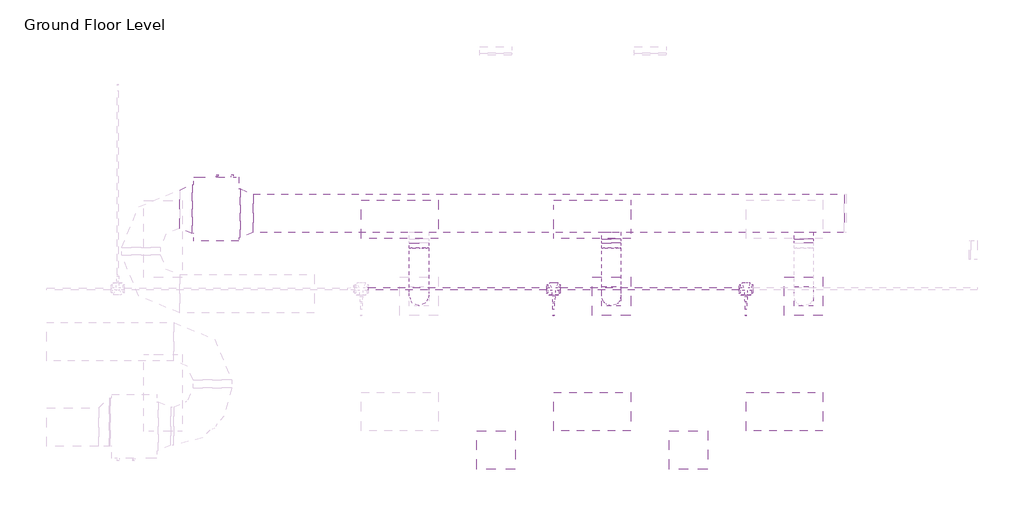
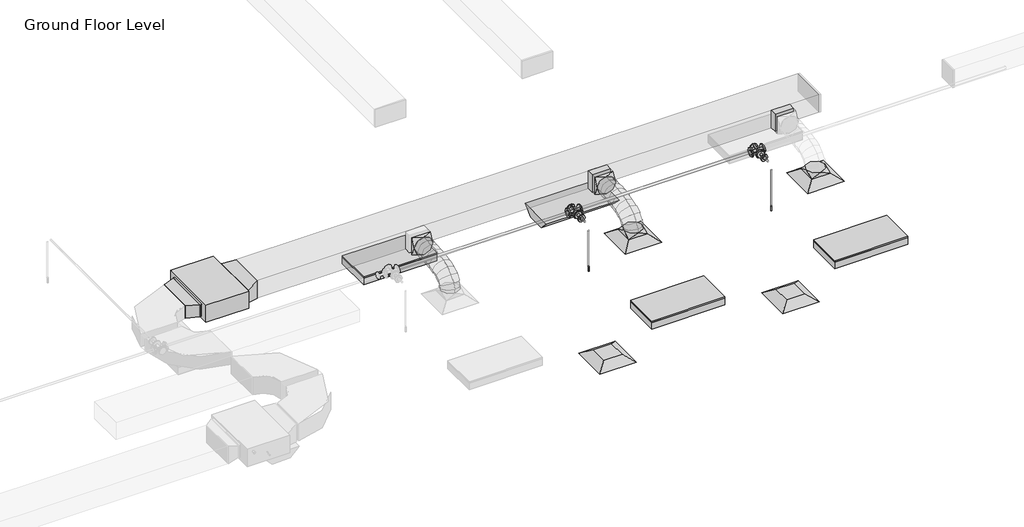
# One storey, part 12 of 68: 8 duct fittings, 6 duct segments, 6 pipe segments, 4 air terminals, 4 light fixtures, 4 pipe fittings, 2 fire suppression terminals, 1 proxy.
"""IFC4 building model written with IfcOpenShell, lengths in millimetres."""

from ifc_helpers import new_model, si_unit, point, frame, frame_2d, origin, place, context, project, spatial, polyline, circle_curve, ellipse_curve, trimmed, segment, composite_curve, outline, extrude, transform, mapped, element, save
from ifc_brep_helpers import plane_surface, cylinder_surface, advanced_brep
from components import m_return_diffuser_600_x_600_face_300_x_300_connection_ff221211, fcu_daikin_iu_7e1df382, m_rectangular_takeoff_standard_2be5eba1, m_rectangular_transition_angle_45_degree_ee72770e, m_rectangular_transition_angle_45_degree_4bb09f68, m_rectangular_to_round_transition_angle_45_degree_641efff0, m_sprinkler_dry_pendent_hosted_15_mm_dry_pendent_9bda8e11, m_emergency_recessed_lighting_fixture_600x1200_277_5b10b25d, m_troffer_light_parabolic_rectangular1_0600x1200mm_4_lamp_86473d4a, m_reducer_flanged_cs_class_150_standard_678fb8eb, m_tee_round_base_flanged_cs_class_150_standard_9c9133d0

model = new_model("IFC4")

# Units and contexts
model_context = context("Model", 3, world=origin())
ifc_project = project(units=[si_unit("LENGTHUNIT", "METRE", prefix="MILLI")], contexts=[model_context])

# Site, building, storey
site = spatial("IfcSite", under=ifc_project)
building = spatial("IfcBuilding", under=site)
storey = spatial("IfcBuildingStorey", under=building, Name="Ground Floor Level", Elevation=900.0)

# Air terminals
placement = place(None, origin())
m_return_diffuser_600_x_600_face_300_x_300_connection_shape = m_return_diffuser_600_x_600_face_300_x_300_connection_ff221211(model_context)
element("IfcAirTerminal", 1, ObjectType="M_Return Diffuser : 600 x 600 Face 300 x 300 Connection", at=placement, inside=storey, context=model_context, shape_type="MappedRepresentation", body=[
    mapped(m_return_diffuser_600_x_600_face_300_x_300_connection_shape, transform((-6937.2327605, -5464.7846466, 3650.0), x_axis=(1.0, 0.0, 0.0), y_axis=(0.0, 1.0, 0.0), z_axis=(0.0, 0.0, 1.0))),
])
element("IfcAirTerminal", 2, ObjectType="M_Return Diffuser : 600 x 600 Face 300 x 300 Connection", at=placement, inside=storey, context=model_context, shape_type="MappedRepresentation", body=[
    mapped(m_return_diffuser_600_x_600_face_300_x_300_connection_shape, transform((-3937.2327605, -5464.7846466, 3650.0), x_axis=(1.0, 0.0, 0.0), y_axis=(0.0, 1.0, 0.0), z_axis=(0.0, 0.0, 1.0))),
])
element("IfcAirTerminal", 3, ObjectType="M_Supply Diffuser : 600 x 600 Face 300 x 300 Connection", at=placement, inside=storey, context=model_context, shape_type="MappedRepresentation", body=[
    mapped(m_return_diffuser_600_x_600_face_300_x_300_connection_shape, transform((-5137.2327605, -3064.7846466, 3650.0), x_axis=(1.0, 0.0, 0.0), y_axis=(0.0, 1.0, 0.0), z_axis=(0.0, 0.0, 1.0))),
])
element("IfcAirTerminal", 4, ObjectType="M_Supply Diffuser : 600 x 600 Face 300 x 300 Connection", at=placement, inside=storey, context=model_context, shape_type="MappedRepresentation", body=[
    mapped(m_return_diffuser_600_x_600_face_300_x_300_connection_shape, transform((-2137.2327605, -3064.7846466, 3650.0), x_axis=(1.0, 0.0, 0.0), y_axis=(0.0, 1.0, 0.0), z_axis=(0.0, 0.0, 1.0))),
])

# Proxy
fcu_daikin_iu_shape = fcu_daikin_iu_7e1df382(model_context)
element("IfcBuildingElementProxy", 5, Name="FCU-DAIKIN IU : 5.7kW, 230V/50Hz/1Ph", ObjectType="FCU-DAIKIN IU : 5.7kW, 230V/50Hz/1Ph", at=placement, inside=storey, context=model_context, shape_type="MappedRepresentation", body=[
    mapped(fcu_daikin_iu_shape, transform((-11297.2327605, -1704.7846466, 3934.0873731), x_axis=(0.0, 1.0, 0.0), y_axis=(-1.0, 0.0, 0.0), z_axis=(0.0, 0.0, 1.0))),
])

# Duct fittings
m_rectangular_takeoff_standard_shape = m_rectangular_takeoff_standard_2be5eba1(model_context)
element("IfcDuctFitting", 6, ObjectType="M_Rectangular Takeoff : Standard", at=placement, inside=storey, context=model_context, shape_type="MappedRepresentation", body=[
    mapped(m_rectangular_takeoff_standard_shape, transform((-2137.2327605, -2068.2846466, 4099.9882429), x_axis=(0.0, -1.0, 0.0), y_axis=(-1.0, 0.0, 0.0), z_axis=(0.0, 0.0, -1.0))),
])
element("IfcDuctFitting", 7, ObjectType="M_Rectangular Takeoff : Standard", at=placement, inside=storey, context=model_context, shape_type="MappedRepresentation", body=[
    mapped(m_rectangular_takeoff_standard_shape, transform((-5137.2327605, -2068.2846466, 4099.9923494), x_axis=(0.0, -1.0, 0.0), y_axis=(-1.0, 0.0, 0.0), z_axis=(0.0, 0.0, -1.0))),
])
m_rectangular_transition_angle_45_degree_shape = m_rectangular_transition_angle_45_degree_ee72770e(model_context)
element("IfcDuctFitting", 8, ObjectType="M_Rectangular Transition - Angle : 45 Degree", at=placement, inside=storey, context=model_context, shape_type="MappedRepresentation", body=[
    mapped(m_rectangular_transition_angle_45_degree_shape, transform((-10921.8327605, -1768.2846466, 4099.9998731), x_axis=(1.0, 0.0, 0.0), y_axis=(0.0, 1.0, 0.0), z_axis=(0.0, 0.0, 1.0))),
])
m_rectangular_transition_angle_45_degree_2_shape = m_rectangular_transition_angle_45_degree_4bb09f68(model_context)
element("IfcDuctFitting", 9, ObjectType="M_Rectangular Transition - Angle : 45 Degree", at=placement, inside=storey, context=model_context, shape_type="MappedRepresentation", body=[
    mapped(m_rectangular_transition_angle_45_degree_2_shape, transform((-11872.6327605, -1704.7846466, 4075.2873731), x_axis=(1.0, 0.0, 0.0), y_axis=(0.0, 1.0, 0.0), z_axis=(0.0, 0.0, 1.0))),
])
m_rectangular_to_round_transition_angle_45_degree_shape = m_rectangular_to_round_transition_angle_45_degree_641efff0(model_context)
element("IfcDuctFitting", 10, ObjectType="M_Rectangular to Round Transition - Angle : 45 Degree", at=placement, inside=storey, context=model_context, shape_type="MappedRepresentation", body=[
    mapped(m_rectangular_to_round_transition_angle_45_degree_shape, transform((-2137.2327605, -3064.7846466, 3751.6), x_axis=(0.0, 0.0, 1.0), y_axis=(-1.0, 0.0, 0.0), z_axis=(0.0, -1.0, 0.0))),
])
element("IfcDuctFitting", 11, ObjectType="M_Rectangular to Round Transition - Angle : 45 Degree", at=placement, inside=storey, context=model_context, shape_type="MappedRepresentation", body=[
    mapped(m_rectangular_to_round_transition_angle_45_degree_shape, transform((-5137.2327605, -3064.7846466, 3751.6), x_axis=(0.0, 0.0, 1.0), y_axis=(-1.0, 0.0, 0.0), z_axis=(0.0, -1.0, 0.0))),
])
element("IfcDuctFitting", 12, ObjectType="M_Rectangular to Round Transition - Angle : 45 Degree", at=placement, inside=storey, context=model_context, shape_type="MappedRepresentation", body=[
    mapped(m_rectangular_to_round_transition_angle_45_degree_shape, transform((-5137.2327605, -2237.4410647, 4099.9923494), x_axis=(0.0, -1.0, 0.0), y_axis=(1.0, 0.0, 0.0), z_axis=(0.0, 0.0, 1.0))),
])
element("IfcDuctFitting", 13, ObjectType="M_Rectangular to Round Transition - Angle : 45 Degree", at=placement, inside=storey, context=model_context, shape_type="MappedRepresentation", body=[
    mapped(m_rectangular_to_round_transition_angle_45_degree_shape, transform((-8137.2327605, -2237.4451712, 4099.9964558), x_axis=(0.0, -1.0, 0.0), y_axis=(1.0, 0.0, 0.0), z_axis=(0.0, 0.0, 1.0))),
])

# Duct segments
element("IfcDuctSegment", 14, ObjectType="Flex - Round", at=placement, inside=storey, context=model_context, shape_type="AdvancedBrep", body=[
    advanced_brep(
    [(-4987.2327605, -3064.7846466, 3826.6), (-5137.2327605, -3214.7846466, 3826.6), (-5287.2327605, -3064.7846466, 3826.6), (-5137.2327605, -2914.7846466, 3826.6), (-4987.2327605, -3064.7846466, 3857.9380326), (-5137.2327605, -3214.7846466, 3883.5816473), (-5287.2327605, -3064.7846466, 3857.9380326), (-5137.2327605, -2914.7846466, 3832.2944178), (-4987.2327605, -3047.7685019, 3906.2507123), (-5137.2327605, -3181.505999, 3978.0672475), (-5287.2327605, -3047.7685019, 3906.2507123), (-5137.2327605, -2914.0310048, 3834.4341772), (-4987.2327605, -3000.584044, 3968.710963), (-5137.2327605, -3104.7886338, 4079.6215744), (-5287.2327605, -3000.584044, 3968.710963), (-5137.2327605, -2896.3794543, 3857.8003516), (-4987.2327605, -2929.0272371, 4016.0687585), (-5137.2327605, -2997.9592292, 4150.3235149), (-5287.2327605, -2929.0272371, 4016.0687585), (-5137.2327605, -2860.095245, 3881.8140022), (-4987.2327605, -2838.8940455, 4050.4121057), (-5137.2327605, -2882.4525531, 4194.3348919), (-5287.2327605, -2838.8940455, 4050.4121057), (-5137.2327605, -2795.3355379, 3906.4893195), (-4987.2327605, -2735.9804334, 4073.8290112), (-5137.2327605, -2762.5392192, 4221.6199045), (-5287.2327605, -2735.9804334, 4073.8290112), (-5137.2327605, -2709.4216475, 3926.0381179), (-4987.2327605, -2626.082365, 4088.4074817), (-5137.2327605, -2641.2314089, 4237.7119283), (-5287.2327605, -2626.082365, 4088.4074817), (-5137.2327605, -2610.9333211, 3939.103035), (-4987.2327605, -2514.9958046, 4096.2355237), (-5137.2327605, -2522.4996869, 4246.0787092), (-5287.2327605, -2514.9958046, 4096.2355237), (-5137.2327605, -2507.4919223, 3946.3923382), (-4987.2327605, -2408.5167164, 4099.4011441), (-5137.2327605, -2411.2073599, 4249.387427), (-5287.2327605, -2408.5167164, 4099.4011441), (-5137.2327605, -2405.8260729, 3949.4148611), (-4987.2327605, -2312.4410647, 4099.9923494), (-5137.2327605, -2311.5180513, 3949.9951892), (-5287.2327605, -2312.4410647, 4099.9923494), (-5137.2327605, -2313.3640781, 4249.9895095)],
    [
        (0, 1, circle_curve(frame((-5137.2327605, -3064.7846466, 3826.6), z_axis=(0.0, 0.0, -1.0), x_axis=(1.0, 0.0, 0.0)), 150.0)),
        (1, 2, circle_curve(frame((-5137.2327605, -3064.7846466, 3826.6), z_axis=(0.0, 0.0, -1.0), x_axis=(1.0, 0.0, 0.0)), 150.0)),
        (2, 3, circle_curve(frame((-5137.2327605, -3064.7846466, 3826.6), z_axis=(0.0, 0.0, -1.0), x_axis=(1.0, 0.0, 0.0)), 150.0)),
        (3, 0, circle_curve(frame((-5137.2327605, -3064.7846466, 3826.6), z_axis=(0.0, 0.0, -1.0), x_axis=(1.0, 0.0, 0.0)), 150.0)),
        (0, 4),
        (4, 5, ellipse_curve(frame((-5137.2327605, -3064.7846466, 3857.9380326), z_axis=(0.0, -0.16851265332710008, -0.9856994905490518), x_axis=(0.0, 0.9856994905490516, -0.16851265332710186)), 152.1761971, 150.0)),
        (5, 1),
        (5, 6, ellipse_curve(frame((-5137.2327605, -3064.7846466, 3857.9380326), z_axis=(0.0, -0.16851265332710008, -0.9856994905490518), x_axis=(0.0, 0.9856994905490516, -0.16851265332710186)), 152.1761971, 150.0)),
        (6, 2),
        (6, 7, ellipse_curve(frame((-5137.2327605, -3064.7846466, 3857.9380326), z_axis=(0.0, -0.16851265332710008, -0.9856994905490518), x_axis=(0.0, 0.9856994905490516, -0.16851265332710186)), 152.1761971, 150.0)),
        (7, 3),
        (7, 4, ellipse_curve(frame((-5137.2327605, -3064.7846466, 3857.9380326), z_axis=(0.0, -0.16851265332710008, -0.9856994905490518), x_axis=(0.0, 0.9856994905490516, -0.16851265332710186)), 152.1761971, 150.0)),
        (4, 8),
        (8, 9, ellipse_curve(frame((-5137.2327605, -3047.7685019, 3906.2507123), z_axis=(0.0, -0.47309875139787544, -0.881009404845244), x_axis=(0.0, 0.8810094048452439, -0.47309875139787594)), 151.8003058, 150.0)),
        (9, 5),
        (9, 10, ellipse_curve(frame((-5137.2327605, -3047.7685019, 3906.2507123), z_axis=(0.0, -0.47309875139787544, -0.881009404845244), x_axis=(0.0, 0.8810094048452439, -0.47309875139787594)), 151.8003058, 150.0)),
        (10, 6),
        (10, 11, ellipse_curve(frame((-5137.2327605, -3047.7685019, 3906.2507123), z_axis=(0.0, -0.47309875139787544, -0.881009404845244), x_axis=(0.0, 0.8810094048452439, -0.47309875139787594)), 151.8003058, 150.0)),
        (11, 7),
        (11, 8, ellipse_curve(frame((-5137.2327605, -3047.7685019, 3906.2507123), z_axis=(0.0, -0.47309875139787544, -0.881009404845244), x_axis=(0.0, 0.8810094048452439, -0.47309875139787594)), 151.8003058, 150.0)),
        (8, 12),
        (12, 13, ellipse_curve(frame((-5137.2327605, -3000.584044, 3968.710963), z_axis=(0.0, -0.7287961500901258, -0.6847307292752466), x_axis=(0.0, 0.6847307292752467, -0.7287961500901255)), 152.1833113, 150.0)),
        (13, 9),
        (13, 14, ellipse_curve(frame((-5137.2327605, -3000.584044, 3968.710963), z_axis=(0.0, -0.7287961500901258, -0.6847307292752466), x_axis=(0.0, 0.6847307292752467, -0.7287961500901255)), 152.1833113, 150.0)),
        (14, 10),
        (14, 15, ellipse_curve(frame((-5137.2327605, -3000.584044, 3968.710963), z_axis=(0.0, -0.7287961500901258, -0.6847307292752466), x_axis=(0.0, 0.6847307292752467, -0.7287961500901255)), 152.1833113, 150.0)),
        (15, 11),
        (15, 12, ellipse_curve(frame((-5137.2327605, -3000.584044, 3968.710963), z_axis=(0.0, -0.7287961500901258, -0.6847307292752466), x_axis=(0.0, 0.6847307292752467, -0.7287961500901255)), 152.1833113, 150.0)),
        (12, 16),
        (16, 17, ellipse_curve(frame((-5137.2327605, -2929.0272371, 4016.0687585), z_axis=(0.0, -0.8895929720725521, -0.4567541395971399), x_axis=(0.0, 0.45675413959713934, -0.8895929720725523)), 150.9170604, 150.0)),
        (17, 13),
        (17, 18, ellipse_curve(frame((-5137.2327605, -2929.0272371, 4016.0687585), z_axis=(0.0, -0.8895929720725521, -0.4567541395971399), x_axis=(0.0, 0.45675413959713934, -0.8895929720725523)), 150.9170604, 150.0)),
        (18, 14),
        (18, 19, ellipse_curve(frame((-5137.2327605, -2929.0272371, 4016.0687585), z_axis=(0.0, -0.8895929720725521, -0.4567541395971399), x_axis=(0.0, 0.45675413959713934, -0.8895929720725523)), 150.9170604, 150.0)),
        (19, 15),
        (19, 16, ellipse_curve(frame((-5137.2327605, -2929.0272371, 4016.0687585), z_axis=(0.0, -0.8895929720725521, -0.4567541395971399), x_axis=(0.0, 0.45675413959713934, -0.8895929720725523)), 150.9170604, 150.0)),
        (16, 20),
        (20, 21, ellipse_curve(frame((-5137.2327605, -2838.8940455, 4050.4121057), z_axis=(0.0, -0.9571248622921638, -0.2896756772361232), x_axis=(0.0, 0.28967567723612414, -0.9571248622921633)), 150.3699171, 150.0)),
        (21, 17),
        (21, 22, ellipse_curve(frame((-5137.2327605, -2838.8940455, 4050.4121057), z_axis=(0.0, -0.9571248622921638, -0.2896756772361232), x_axis=(0.0, 0.28967567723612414, -0.9571248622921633)), 150.3699171, 150.0)),
        (22, 18),
        (22, 23, ellipse_curve(frame((-5137.2327605, -2838.8940455, 4050.4121057), z_axis=(0.0, -0.9571248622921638, -0.2896756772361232), x_axis=(0.0, 0.28967567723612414, -0.9571248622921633)), 150.3699171, 150.0)),
        (23, 19),
        (23, 20, ellipse_curve(frame((-5137.2327605, -2838.8940455, 4050.4121057), z_axis=(0.0, -0.9571248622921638, -0.2896756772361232), x_axis=(0.0, 0.28967567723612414, -0.9571248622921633)), 150.3699171, 150.0)),
        (20, 24),
        (24, 25, ellipse_curve(frame((-5137.2327605, -2735.9804334, 4073.8290112), z_axis=(0.0, -0.984233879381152, -0.17687190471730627), x_axis=(0.0, 0.17687190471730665, -0.984233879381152)), 150.1583073, 150.0)),
        (25, 21),
        (25, 26, ellipse_curve(frame((-5137.2327605, -2735.9804334, 4073.8290112), z_axis=(0.0, -0.984233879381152, -0.17687190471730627), x_axis=(0.0, 0.17687190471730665, -0.984233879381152)), 150.1583073, 150.0)),
        (26, 22),
        (26, 27, ellipse_curve(frame((-5137.2327605, -2735.9804334, 4073.8290112), z_axis=(0.0, -0.984233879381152, -0.17687190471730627), x_axis=(0.0, 0.17687190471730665, -0.984233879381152)), 150.1583073, 150.0)),
        (27, 23),
        (27, 24, ellipse_curve(frame((-5137.2327605, -2735.9804334, 4073.8290112), z_axis=(0.0, -0.984233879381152, -0.17687190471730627), x_axis=(0.0, 0.17687190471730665, -0.984233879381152)), 150.1583073, 150.0)),
        (24, 28),
        (28, 29, ellipse_curve(frame((-5137.2327605, -2626.082365, 4088.4074817), z_axis=(0.0, -0.9948919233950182, -0.1009458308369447), x_axis=(0.0, 0.10094583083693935, -0.9948919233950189)), 150.0710209, 150.0)),
        (29, 25),
        (29, 30, ellipse_curve(frame((-5137.2327605, -2626.082365, 4088.4074817), z_axis=(0.0, -0.9948919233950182, -0.1009458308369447), x_axis=(0.0, 0.10094583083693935, -0.9948919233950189)), 150.0710209, 150.0)),
        (30, 26),
        (30, 31, ellipse_curve(frame((-5137.2327605, -2626.082365, 4088.4074817), z_axis=(0.0, -0.9948919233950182, -0.1009458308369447), x_axis=(0.0, 0.10094583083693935, -0.9948919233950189)), 150.0710209, 150.0)),
        (31, 27),
        (31, 28, ellipse_curve(frame((-5137.2327605, -2626.082365, 4088.4074817), z_axis=(0.0, -0.9948919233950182, -0.1009458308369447), x_axis=(0.0, 0.10094583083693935, -0.9948919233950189)), 150.0710209, 150.0)),
        (28, 32),
        (32, 33, ellipse_curve(frame((-5137.2327605, -2514.9958046, 4096.2355237), z_axis=(0.0, -0.9987484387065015, -0.05001555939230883), x_axis=(0.0, 0.05001555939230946, -0.9987484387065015)), 150.0309584, 150.0)),
        (33, 29),
        (33, 34, ellipse_curve(frame((-5137.2327605, -2514.9958046, 4096.2355237), z_axis=(0.0, -0.9987484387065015, -0.05001555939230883), x_axis=(0.0, 0.05001555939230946, -0.9987484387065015)), 150.0309584, 150.0)),
        (34, 30),
        (34, 35, ellipse_curve(frame((-5137.2327605, -2514.9958046, 4096.2355237), z_axis=(0.0, -0.9987484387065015, -0.05001555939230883), x_axis=(0.0, 0.05001555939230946, -0.9987484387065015)), 150.0309584, 150.0)),
        (35, 31),
        (35, 32, ellipse_curve(frame((-5137.2327605, -2514.9958046, 4096.2355237), z_axis=(0.0, -0.9987484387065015, -0.05001555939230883), x_axis=(0.0, 0.05001555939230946, -0.9987484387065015)), 150.0309584, 150.0)),
        (32, 36),
        (36, 37, ellipse_curve(frame((-5137.2327605, -2408.5167164, 4099.4011441), z_axis=(0.0, -0.9998391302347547, -0.01793637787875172), x_axis=(0.0, 0.017936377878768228, -0.9998391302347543)), 150.0104151, 150.0)),
        (37, 33),
        (37, 38, ellipse_curve(frame((-5137.2327605, -2408.5167164, 4099.4011441), z_axis=(0.0, -0.9998391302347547, -0.01793637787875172), x_axis=(0.0, 0.017936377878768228, -0.9998391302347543)), 150.0104151, 150.0)),
        (38, 34),
        (38, 39, ellipse_curve(frame((-5137.2327605, -2408.5167164, 4099.4011441), z_axis=(0.0, -0.9998391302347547, -0.01793637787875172), x_axis=(0.0, 0.017936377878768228, -0.9998391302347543)), 150.0104151, 150.0)),
        (39, 35),
        (39, 36, ellipse_curve(frame((-5137.2327605, -2408.5167164, 4099.4011441), z_axis=(0.0, -0.9998391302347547, -0.01793637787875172), x_axis=(0.0, 0.017936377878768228, -0.9998391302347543)), 150.0104151, 150.0)),
        (40, 41, circle_curve(frame((-5137.2327605, -2312.4410647, 4099.9923494), z_axis=(0.0, 0.9999810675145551, 0.0061534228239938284), x_axis=(1.0, 0.0, 0.0)), 150.0)),
        (41, 42, circle_curve(frame((-5137.2327605, -2312.4410647, 4099.9923494), z_axis=(0.0, 0.9999810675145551, 0.0061534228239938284), x_axis=(1.0, 0.0, 0.0)), 150.0)),
        (42, 43, circle_curve(frame((-5137.2327605, -2312.4410647, 4099.9923494), z_axis=(0.0, 0.9999810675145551, 0.0061534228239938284), x_axis=(1.0, 0.0, 0.0)), 150.0)),
        (43, 40, circle_curve(frame((-5137.2327605, -2312.4410647, 4099.9923494), z_axis=(0.0, 0.9999810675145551, 0.0061534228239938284), x_axis=(1.0, 0.0, 0.0)), 150.0)),
        (36, 40),
        (43, 37),
        (42, 38),
        (41, 39),
    ],
    [
        plane_surface(frame((-5137.2327605, -3214.7846466, 3826.6), z_axis=(0.0, 0.0, -1.0), x_axis=(1.0, 0.0, 0.0))),
        cylinder_surface(frame((-5137.2327605, -3064.7846466, 3826.6), z_axis=(0.0, 0.0, -1.0), x_axis=(1.0, 0.0, 0.0)), 150.0),
        cylinder_surface(frame((-5137.2327605, -3064.7846466, 3857.9380326), z_axis=(0.0, -0.33220567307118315, -0.9432069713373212), x_axis=(1.0, 0.0, 0.0)), 150.0),
        cylinder_surface(frame((-5137.2327605, -3047.7685019, 3906.2507123), z_axis=(0.0, -0.6027702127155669, -0.797914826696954), x_axis=(1.0, 0.0, 0.0)), 150.0),
        cylinder_surface(frame((-5137.2327605, -3000.584044, 3968.710963), z_axis=(0.0, -0.8339106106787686, -0.5518995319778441), x_axis=(1.0, 0.0, 0.0)), 150.0),
        cylinder_surface(frame((-5137.2327605, -2929.0272371, 4016.0687585), z_axis=(0.0, -0.9344639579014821, -0.3560577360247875), x_axis=(1.0, 0.0, 0.0)), 150.0),
        cylinder_surface(frame((-5137.2327605, -2838.8940455, 4050.4121057), z_axis=(0.0, -0.9750766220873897, -0.22186838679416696), x_axis=(1.0, 0.0, 0.0)), 150.0),
        cylinder_surface(frame((-5137.2327605, -2735.9804334, 4073.8290112), z_axis=(0.0, -0.9913158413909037, -0.13150248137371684), x_axis=(1.0, 0.0, 0.0)), 150.0),
        cylinder_surface(frame((-5137.2327605, -2626.082365, 4088.4074817), z_axis=(0.0, -0.9975263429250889, -0.07029363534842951), x_axis=(1.0, 0.0, 0.0)), 150.0),
        cylinder_surface(frame((-5137.2327605, -2514.9958046, 4096.2355237), z_axis=(0.0, -0.9995583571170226, -0.029716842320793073), x_axis=(1.0, 0.0, 0.0)), 150.0),
        plane_surface(frame((-5137.2327605, -2313.3640781, 4249.9895095), z_axis=(0.0, 0.9999810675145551, 0.006153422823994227), x_axis=(1.0, 0.0, 0.0))),
        cylinder_surface(frame((-5137.2327605, -2408.5167164, 4099.4011441), z_axis=(0.0, -0.9999810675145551, -0.0061534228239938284), x_axis=(1.0, 0.0, 0.0)), 150.0),
    ],
    [
        (0, [[1, 2, 3, 4]]),
        (1, [[-1, 5, 6, 7]]),
        (1, [[-2, -7, 8, 9]]),
        (1, [[-3, -9, 10, 11]]),
        (1, [[-4, -11, 12, -5]]),
        (2, [[-6, 13, 14, 15]]),
        (2, [[-8, -15, 16, 17]]),
        (2, [[-10, -17, 18, 19]]),
        (2, [[-12, -19, 20, -13]]),
        (3, [[-14, 21, 22, 23]]),
        (3, [[-16, -23, 24, 25]]),
        (3, [[-18, -25, 26, 27]]),
        (3, [[-20, -27, 28, -21]]),
        (4, [[-22, 29, 30, 31]]),
        (4, [[-24, -31, 32, 33]]),
        (4, [[-26, -33, 34, 35]]),
        (4, [[-28, -35, 36, -29]]),
        (5, [[-30, 37, 38, 39]]),
        (5, [[-32, -39, 40, 41]]),
        (5, [[-34, -41, 42, 43]]),
        (5, [[-36, -43, 44, -37]]),
        (6, [[-38, 45, 46, 47]]),
        (6, [[-40, -47, 48, 49]]),
        (6, [[-42, -49, 50, 51]]),
        (6, [[-44, -51, 52, -45]]),
        (7, [[-46, 53, 54, 55]]),
        (7, [[-48, -55, 56, 57]]),
        (7, [[-50, -57, 58, 59]]),
        (7, [[-52, -59, 60, -53]]),
        (8, [[-54, 61, 62, 63]]),
        (8, [[-56, -63, 64, 65]]),
        (8, [[-58, -65, 66, 67]]),
        (8, [[-60, -67, 68, -61]]),
        (9, [[-62, 69, 70, 71]]),
        (9, [[-64, -71, 72, 73]]),
        (9, [[-66, -73, 74, 75]]),
        (9, [[-68, -75, 76, -69]]),
        (10, [[77, 78, 79, 80]]),
        (11, [[-70, 81, -80, 82]]),
        (11, [[-72, -82, -79, 83]]),
        (11, [[-74, -83, -78, 84]]),
        (11, [[-76, -84, -77, -81]]),
    ],
),
])
element("IfcDuctSegment", 15, ObjectType="Flex - Round", at=placement, inside=storey, context=model_context, shape_type="AdvancedBrep", body=[
    advanced_brep(
    [(-7987.2327605, -3064.7846466, 3826.6), (-8137.2327605, -3214.7846466, 3826.6), (-8287.2327605, -3064.7846466, 3826.6), (-8137.2327605, -2914.7846466, 3826.6), (-7987.2327605, -3064.7846466, 3857.9378602), (-8137.2327605, -3214.7846466, 3883.5812643), (-8287.2327605, -3064.7846466, 3857.9378602), (-8137.2327605, -2914.7846466, 3832.2944561), (-7987.2327605, -3047.7686158, 3906.2506375), (-8137.2327605, -3181.5063715, 3978.0666298), (-8287.2327605, -3047.7686158, 3906.2506375), (-8137.2327605, -2914.03086, 3834.4346451), (-7987.2327605, -3000.5844679, 3968.7111509), (-8137.2327605, -3104.7897605, 4079.6210528), (-8287.2327605, -3000.5844679, 3968.7111509), (-8137.2327605, -2896.3791753, 3857.801249), (-7987.2327605, -2929.0281198, 4016.0694592), (-8137.2327605, -2997.9612194, 4150.3236405), (-8287.2327605, -2929.0281198, 4016.0694592), (-8137.2327605, -2860.0950201, 3881.8152779), (-7987.2327605, -2838.8954883, 4050.4134811), (-8137.2327605, -2882.4552066, 4194.3359031), (-8287.2327605, -2838.8954883, 4050.4134811), (-8137.2327605, -2795.33577, 3906.4910592), (-7987.2327605, -2735.9824904, 4073.8311356), (-8137.2327605, -2762.5424239, 4221.6218258), (-8287.2327605, -2735.9824904, 4073.8311356), (-8137.2327605, -2709.4225569, 3926.0404454), (-7987.2327605, -2626.0850428, 4088.4103415), (-8137.2327605, -2641.2350842, 4237.7146898), (-8287.2327605, -2626.0850428, 4088.4103415), (-8137.2327605, -2610.9350014, 3939.1059931), (-7987.2327605, -2514.9990625, 4096.2390176), (-8137.2327605, -2522.5037209, 4246.0821669), (-8287.2327605, -2514.9990625, 4096.2390176), (-8137.2327605, -2507.4944041, 3946.3958683), (-7987.2327605, -2408.5204663, 4099.4050828), (-8137.2327605, -2411.2115659, 4249.3913598), (-8287.2327605, -2408.5204663, 4099.4050828), (-8137.2327605, -2405.8293668, 3949.4188057), (-7987.2327605, -2312.4451712, 4099.9964558), (-8137.2327605, -2311.5218924, 3949.9992973), (-8287.2327605, -2312.4451712, 4099.9964558), (-8137.2327605, -2313.36845, 4249.9936143)],
    [
        (0, 1, circle_curve(frame((-8137.2327605, -3064.7846466, 3826.6), z_axis=(0.0, 0.0, -1.0), x_axis=(1.0, 0.0, 0.0)), 150.0)),
        (1, 2, circle_curve(frame((-8137.2327605, -3064.7846466, 3826.6), z_axis=(0.0, 0.0, -1.0), x_axis=(1.0, 0.0, 0.0)), 150.0)),
        (2, 3, circle_curve(frame((-8137.2327605, -3064.7846466, 3826.6), z_axis=(0.0, 0.0, -1.0), x_axis=(1.0, 0.0, 0.0)), 150.0)),
        (3, 0, circle_curve(frame((-8137.2327605, -3064.7846466, 3826.6), z_axis=(0.0, 0.0, -1.0), x_axis=(1.0, 0.0, 0.0)), 150.0)),
        (0, 4),
        (4, 5, ellipse_curve(frame((-8137.2327605, -3064.7846466, 3857.9378602), z_axis=(0.0, -0.16851130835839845, -0.9856997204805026), x_axis=(0.0, 0.9856997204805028, -0.1685113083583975)), 152.1761616, 150.0)),
        (5, 1),
        (5, 6, ellipse_curve(frame((-8137.2327605, -3064.7846466, 3857.9378602), z_axis=(0.0, -0.16851130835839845, -0.9856997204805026), x_axis=(0.0, 0.9856997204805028, -0.1685113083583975)), 152.1761616, 150.0)),
        (6, 2),
        (6, 7, ellipse_curve(frame((-8137.2327605, -3064.7846466, 3857.9378602), z_axis=(0.0, -0.16851130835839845, -0.9856997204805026), x_axis=(0.0, 0.9856997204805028, -0.1685113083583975)), 152.1761616, 150.0)),
        (7, 3),
        (7, 4, ellipse_curve(frame((-8137.2327605, -3064.7846466, 3857.9378602), z_axis=(0.0, -0.16851130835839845, -0.9856997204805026), x_axis=(0.0, 0.9856997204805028, -0.1685113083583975)), 152.1761616, 150.0)),
        (4, 8),
        (8, 9, ellipse_curve(frame((-8137.2327605, -3047.7686158, 3906.2506375), z_axis=(0.0, -0.47309526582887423, -0.8810112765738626), x_axis=(0.0, 0.8810112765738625, -0.4730952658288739)), 151.8002769, 150.0)),
        (9, 5),
        (9, 10, ellipse_curve(frame((-8137.2327605, -3047.7686158, 3906.2506375), z_axis=(0.0, -0.47309526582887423, -0.8810112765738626), x_axis=(0.0, 0.8810112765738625, -0.4730952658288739)), 151.8002769, 150.0)),
        (10, 6),
        (10, 11, ellipse_curve(frame((-8137.2327605, -3047.7686158, 3906.2506375), z_axis=(0.0, -0.47309526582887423, -0.8810112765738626), x_axis=(0.0, 0.8810112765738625, -0.4730952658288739)), 151.8002769, 150.0)),
        (11, 7),
        (11, 8, ellipse_curve(frame((-8137.2327605, -3047.7686158, 3906.2506375), z_axis=(0.0, -0.47309526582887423, -0.8810112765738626), x_axis=(0.0, 0.8810112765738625, -0.4730952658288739)), 151.8002769, 150.0)),
        (8, 12),
        (12, 13, ellipse_curve(frame((-8137.2327605, -3000.5844679, 3968.7111509), z_axis=(0.0, -0.7287916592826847, -0.6847355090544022), x_axis=(0.0, 0.6847355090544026, -0.7287916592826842)), 152.1832755, 150.0)),
        (13, 9),
        (13, 14, ellipse_curve(frame((-8137.2327605, -3000.5844679, 3968.7111509), z_axis=(0.0, -0.7287916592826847, -0.6847355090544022), x_axis=(0.0, 0.6847355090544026, -0.7287916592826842)), 152.1832755, 150.0)),
        (14, 10),
        (14, 15, ellipse_curve(frame((-8137.2327605, -3000.5844679, 3968.7111509), z_axis=(0.0, -0.7287916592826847, -0.6847355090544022), x_axis=(0.0, 0.6847355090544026, -0.7287916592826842)), 152.1832755, 150.0)),
        (15, 11),
        (15, 12, ellipse_curve(frame((-8137.2327605, -3000.5844679, 3968.7111509), z_axis=(0.0, -0.7287916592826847, -0.6847355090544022), x_axis=(0.0, 0.6847355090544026, -0.7287916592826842)), 152.1832755, 150.0)),
        (12, 16),
        (16, 17, ellipse_curve(frame((-8137.2327605, -2929.0281198, 4016.0694592), z_axis=(0.0, -0.8895891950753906, -0.45676149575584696), x_axis=(0.0, 0.45676149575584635, -0.8895891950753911)), 150.9170548, 150.0)),
        (17, 13),
        (17, 18, ellipse_curve(frame((-8137.2327605, -2929.0281198, 4016.0694592), z_axis=(0.0, -0.8895891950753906, -0.45676149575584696), x_axis=(0.0, 0.45676149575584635, -0.8895891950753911)), 150.9170548, 150.0)),
        (18, 14),
        (18, 19, ellipse_curve(frame((-8137.2327605, -2929.0281198, 4016.0694592), z_axis=(0.0, -0.8895891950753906, -0.45676149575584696), x_axis=(0.0, 0.45676149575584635, -0.8895891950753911)), 150.9170548, 150.0)),
        (19, 15),
        (19, 16, ellipse_curve(frame((-8137.2327605, -2929.0281198, 4016.0694592), z_axis=(0.0, -0.8895891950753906, -0.45676149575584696), x_axis=(0.0, 0.45676149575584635, -0.8895891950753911)), 150.9170548, 150.0)),
        (16, 20),
        (20, 21, ellipse_curve(frame((-8137.2327605, -2838.8954883, 4050.4134811), z_axis=(0.0, -0.9571224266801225, -0.2896837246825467), x_axis=(0.0, 0.2896837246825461, -0.9571224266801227)), 150.3699192, 150.0)),
        (21, 17),
        (21, 22, ellipse_curve(frame((-8137.2327605, -2838.8954883, 4050.4134811), z_axis=(0.0, -0.9571224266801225, -0.2896837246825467), x_axis=(0.0, 0.2896837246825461, -0.9571224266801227)), 150.3699192, 150.0)),
        (22, 18),
        (22, 23, ellipse_curve(frame((-8137.2327605, -2838.8954883, 4050.4134811), z_axis=(0.0, -0.9571224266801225, -0.2896837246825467), x_axis=(0.0, 0.2896837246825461, -0.9571224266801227)), 150.3699192, 150.0)),
        (23, 19),
        (23, 20, ellipse_curve(frame((-8137.2327605, -2838.8954883, 4050.4134811), z_axis=(0.0, -0.9571224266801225, -0.2896837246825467), x_axis=(0.0, 0.2896837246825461, -0.9571224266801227)), 150.3699192, 150.0)),
        (20, 24),
        (24, 25, ellipse_curve(frame((-8137.2327605, -2735.9824904, 4073.8311356), z_axis=(0.0, -0.984232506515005, -0.17687954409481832), x_axis=(0.0, 0.17687954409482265, -0.9842325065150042)), 150.1583104, 150.0)),
        (25, 21),
        (25, 26, ellipse_curve(frame((-8137.2327605, -2735.9824904, 4073.8311356), z_axis=(0.0, -0.984232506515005, -0.17687954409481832), x_axis=(0.0, 0.17687954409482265, -0.9842325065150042)), 150.1583104, 150.0)),
        (26, 22),
        (26, 27, ellipse_curve(frame((-8137.2327605, -2735.9824904, 4073.8311356), z_axis=(0.0, -0.984232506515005, -0.17687954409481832), x_axis=(0.0, 0.17687954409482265, -0.9842325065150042)), 150.1583104, 150.0)),
        (27, 23),
        (27, 24, ellipse_curve(frame((-8137.2327605, -2735.9824904, 4073.8311356), z_axis=(0.0, -0.984232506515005, -0.17687954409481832), x_axis=(0.0, 0.17687954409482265, -0.9842325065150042)), 150.1583104, 150.0)),
        (24, 28),
        (28, 29, ellipse_curve(frame((-8137.2327605, -2626.0850428, 4088.4103415), z_axis=(0.0, -0.9948912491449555, -0.10095247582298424), x_axis=(0.0, 0.10095247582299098, -0.9948912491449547)), 150.0710238, 150.0)),
        (29, 25),
        (29, 30, ellipse_curve(frame((-8137.2327605, -2626.0850428, 4088.4103415), z_axis=(0.0, -0.9948912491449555, -0.10095247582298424), x_axis=(0.0, 0.10095247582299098, -0.9948912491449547)), 150.0710238, 150.0)),
        (30, 26),
        (30, 31, ellipse_curve(frame((-8137.2327605, -2626.0850428, 4088.4103415), z_axis=(0.0, -0.9948912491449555, -0.10095247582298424), x_axis=(0.0, 0.10095247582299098, -0.9948912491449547)), 150.0710238, 150.0)),
        (31, 27),
        (31, 28, ellipse_curve(frame((-8137.2327605, -2626.0850428, 4088.4103415), z_axis=(0.0, -0.9948912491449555, -0.10095247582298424), x_axis=(0.0, 0.10095247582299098, -0.9948912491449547)), 150.0710238, 150.0)),
        (28, 32),
        (32, 33, ellipse_curve(frame((-8137.2327605, -2514.9990625, 4096.2390176), z_axis=(0.0, -0.9987481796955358, -0.05002073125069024), x_axis=(0.0, 0.05002073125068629, -0.998748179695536)), 150.0309611, 150.0)),
        (33, 29),
        (33, 34, ellipse_curve(frame((-8137.2327605, -2514.9990625, 4096.2390176), z_axis=(0.0, -0.9987481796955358, -0.05002073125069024), x_axis=(0.0, 0.05002073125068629, -0.998748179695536)), 150.0309611, 150.0)),
        (34, 30),
        (34, 35, ellipse_curve(frame((-8137.2327605, -2514.9990625, 4096.2390176), z_axis=(0.0, -0.9987481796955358, -0.05002073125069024), x_axis=(0.0, 0.05002073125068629, -0.998748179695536)), 150.0309611, 150.0)),
        (35, 31),
        (35, 32, ellipse_curve(frame((-8137.2327605, -2514.9990625, 4096.2390176), z_axis=(0.0, -0.9987481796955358, -0.05002073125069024), x_axis=(0.0, 0.05002073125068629, -0.998748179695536)), 150.0309611, 150.0)),
        (32, 36),
        (36, 37, ellipse_curve(frame((-8137.2327605, -2408.5204663, 4099.4050828), z_axis=(0.0, -0.9998390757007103, -0.017939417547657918), x_axis=(0.0, 0.01793941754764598, -0.9998390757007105)), 150.0104173, 150.0)),
        (37, 33),
        (37, 38, ellipse_curve(frame((-8137.2327605, -2408.5204663, 4099.4050828), z_axis=(0.0, -0.9998390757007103, -0.017939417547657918), x_axis=(0.0, 0.01793941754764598, -0.9998390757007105)), 150.0104173, 150.0)),
        (38, 34),
        (38, 39, ellipse_curve(frame((-8137.2327605, -2408.5204663, 4099.4050828), z_axis=(0.0, -0.9998390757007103, -0.017939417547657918), x_axis=(0.0, 0.01793941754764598, -0.9998390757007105)), 150.0104173, 150.0)),
        (39, 35),
        (39, 36, ellipse_curve(frame((-8137.2327605, -2408.5204663, 4099.4050828), z_axis=(0.0, -0.9998390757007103, -0.017939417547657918), x_axis=(0.0, 0.01793941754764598, -0.9998390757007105)), 150.0104173, 150.0)),
        (40, 41, circle_curve(frame((-8137.2327605, -2312.4451712, 4099.9964558), z_axis=(0.0, 0.9999810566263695, 0.006155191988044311), x_axis=(1.0, 0.0, 0.0)), 150.0)),
        (41, 42, circle_curve(frame((-8137.2327605, -2312.4451712, 4099.9964558), z_axis=(0.0, 0.9999810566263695, 0.006155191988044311), x_axis=(1.0, 0.0, 0.0)), 150.0)),
        (42, 43, circle_curve(frame((-8137.2327605, -2312.4451712, 4099.9964558), z_axis=(0.0, 0.9999810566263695, 0.006155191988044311), x_axis=(1.0, 0.0, 0.0)), 150.0)),
        (43, 40, circle_curve(frame((-8137.2327605, -2312.4451712, 4099.9964558), z_axis=(0.0, 0.9999810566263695, 0.006155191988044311), x_axis=(1.0, 0.0, 0.0)), 150.0)),
        (36, 40),
        (43, 37),
        (42, 38),
        (41, 39),
    ],
    [
        plane_surface(frame((-8137.2327605, -3214.7846466, 3826.6), z_axis=(0.0, 0.0, -1.0), x_axis=(1.0, 0.0, 0.0))),
        cylinder_surface(frame((-8137.2327605, -3064.7846466, 3826.6), z_axis=(0.0, 0.0, -1.0), x_axis=(1.0, 0.0, 0.0)), 150.0),
        cylinder_surface(frame((-8137.2327605, -3064.7846466, 3857.9378602), z_axis=(0.0, -0.3322030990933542, -0.9432078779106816), x_axis=(1.0, 0.0, 0.0)), 150.0),
        cylinder_surface(frame((-8137.2327605, -3047.7686158, 3906.2506375), z_axis=(0.0, -0.6027660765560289, -0.7979179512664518), x_axis=(1.0, 0.0, 0.0)), 150.0),
        cylinder_surface(frame((-8137.2327605, -3000.5844679, 3968.7111509), z_axis=(0.0, -0.8339062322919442, -0.5519061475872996), x_axis=(1.0, 0.0, 0.0)), 150.0),
        cylinder_surface(frame((-8137.2327605, -2929.0281198, 4016.0694592), z_axis=(0.0, -0.9344608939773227, -0.356065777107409), x_axis=(1.0, 0.0, 0.0)), 150.0),
        cylinder_surface(frame((-8137.2327605, -2838.8954883, 4050.4134811), z_axis=(0.0, -0.9750748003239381, -0.22187639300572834), x_axis=(1.0, 0.0, 0.0)), 150.0),
        cylinder_surface(frame((-8137.2327605, -2735.9824904, 4073.8311356), z_axis=(0.0, -0.9913148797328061, -0.13150973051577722), x_axis=(1.0, 0.0, 0.0)), 150.0),
        cylinder_surface(frame((-8137.2327605, -2626.0850428, 4088.4103415), z_axis=(0.0, -0.9975259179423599, -0.07029966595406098), x_axis=(1.0, 0.0, 0.0)), 150.0),
        cylinder_surface(frame((-8137.2327605, -2514.9990625, 4096.2390176), z_axis=(0.0, -0.9995582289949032, -0.029721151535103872), x_axis=(1.0, 0.0, 0.0)), 150.0),
        plane_surface(frame((-8137.2327605, -2313.36845, 4249.9936143), z_axis=(0.0, 0.9999810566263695, 0.006155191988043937), x_axis=(1.0, 0.0, 0.0))),
        cylinder_surface(frame((-8137.2327605, -2408.5204663, 4099.4050828), z_axis=(0.0, -0.9999810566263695, -0.006155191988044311), x_axis=(1.0, 0.0, 0.0)), 150.0),
    ],
    [
        (0, [[1, 2, 3, 4]]),
        (1, [[-1, 5, 6, 7]]),
        (1, [[-2, -7, 8, 9]]),
        (1, [[-3, -9, 10, 11]]),
        (1, [[-4, -11, 12, -5]]),
        (2, [[-6, 13, 14, 15]]),
        (2, [[-8, -15, 16, 17]]),
        (2, [[-10, -17, 18, 19]]),
        (2, [[-12, -19, 20, -13]]),
        (3, [[-14, 21, 22, 23]]),
        (3, [[-16, -23, 24, 25]]),
        (3, [[-18, -25, 26, 27]]),
        (3, [[-20, -27, 28, -21]]),
        (4, [[-22, 29, 30, 31]]),
        (4, [[-24, -31, 32, 33]]),
        (4, [[-26, -33, 34, 35]]),
        (4, [[-28, -35, 36, -29]]),
        (5, [[-30, 37, 38, 39]]),
        (5, [[-32, -39, 40, 41]]),
        (5, [[-34, -41, 42, 43]]),
        (5, [[-36, -43, 44, -37]]),
        (6, [[-38, 45, 46, 47]]),
        (6, [[-40, -47, 48, 49]]),
        (6, [[-42, -49, 50, 51]]),
        (6, [[-44, -51, 52, -45]]),
        (7, [[-46, 53, 54, 55]]),
        (7, [[-48, -55, 56, 57]]),
        (7, [[-50, -57, 58, 59]]),
        (7, [[-52, -59, 60, -53]]),
        (8, [[-54, 61, 62, 63]]),
        (8, [[-56, -63, 64, 65]]),
        (8, [[-58, -65, 66, 67]]),
        (8, [[-60, -67, 68, -61]]),
        (9, [[-62, 69, 70, 71]]),
        (9, [[-64, -71, 72, 73]]),
        (9, [[-66, -73, 74, 75]]),
        (9, [[-68, -75, 76, -69]]),
        (10, [[77, 78, 79, 80]]),
        (11, [[-70, 81, -80, 82]]),
        (11, [[-72, -82, -79, 83]]),
        (11, [[-74, -83, -78, 84]]),
        (11, [[-76, -84, -77, -81]]),
    ],
),
])
element("IfcDuctSegment", 16, ObjectType="Radius Elbows / Taps", at=placement, inside=storey, context=model_context, shape_type="SweptSolid", body=[
    extrude(outline(polyline([(0.0, -600.0), (0.0, 0.0), (9224.5995898, 0.0), (9224.5995898, -600.0), (0.0, -600.0)])), frame((-10726.4325556, -1468.2846466, 3950.0), z_axis=(1.3688243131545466e-06, 0.0, 0.9999999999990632), x_axis=(0.9999999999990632, 0.0, -1.3688243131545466e-06)), (0.0, 0.0, 1.0), 300.0),
])
element("IfcDuctSegment", 17, ObjectType="Radius Elbows / Taps", at=placement, inside=storey, context=model_context, shape_type="SweptSolid", body=[
    extrude(outline(polyline([(-11672.6327605, -1323.8471466), (-11672.6327605, -2085.7221466), (-11677.2323503, -2085.7221466), (-11677.2323503, -1323.8471466), (-11672.6327605, -1323.8471466)])), frame((0.0, 0.0, 3968.1373731), z_axis=(0.0, 0.0, 1.0), x_axis=(1.0, 0.0, 0.0)), (0.0, 0.0, 1.0), 214.3),
])
element("IfcDuctSegment", 18, ObjectType="Radius Elbows / Taps", at=placement, inside=storey, context=model_context, shape_type="SweptSolid", body=[
    extrude(outline(polyline([(-2287.2327605, -2169.8846466), (-1987.2327605, -2169.8846466), (-1987.2327605, -2237.4369582), (-2287.2327605, -2237.4369582), (-2287.2327605, -2169.8846466)])), frame((0.0, 0.0, 3949.9882429), z_axis=(0.0, 0.0, 1.0), x_axis=(1.0, 0.0, 0.0)), (0.0, 0.0, 1.0), 300.0),
])
element("IfcDuctSegment", 19, ObjectType="Radius Elbows / Taps", at=placement, inside=storey, context=model_context, shape_type="SweptSolid", body=[
    extrude(outline(polyline([(-5287.2327605, -2169.8846466), (-4987.2327605, -2169.8846466), (-4987.2327605, -2237.4410647), (-5287.2327605, -2237.4410647), (-5287.2327605, -2169.8846466)])), frame((0.0, 0.0, 3949.9923494), z_axis=(0.0, 0.0, 1.0), x_axis=(1.0, 0.0, 0.0)), (0.0, 0.0, 1.0), 300.0),
])

# Fire suppression terminals
m_sprinkler_dry_pendent_hosted_15_mm_dry_pendent_shape = m_sprinkler_dry_pendent_hosted_15_mm_dry_pendent_9bda8e11(model_context)
element("IfcFireSuppressionTerminal", 20, ObjectType="M_Sprinkler - Dry - Pendent - Hosted : 15 mm Dry Pendent", at=placement, inside=storey, context=model_context, shape_type="MappedRepresentation", body=[
    mapped(m_sprinkler_dry_pendent_hosted_15_mm_dry_pendent_shape, transform((-6037.2327605, -3364.7846466, 3650.0), x_axis=(1.0, 0.0, 0.0), y_axis=(0.0, -1.0, 0.0), z_axis=(0.0, 0.0, -1.0))),
])
element("IfcFireSuppressionTerminal", 21, ObjectType="M_Sprinkler - Dry - Pendent - Hosted : 15 mm Dry Pendent", at=placement, inside=storey, context=model_context, shape_type="MappedRepresentation", body=[
    mapped(m_sprinkler_dry_pendent_hosted_15_mm_dry_pendent_shape, transform((-3037.2327605, -3364.7846466, 3650.0), x_axis=(1.0, 0.0, 0.0), y_axis=(0.0, -1.0, 0.0), z_axis=(0.0, 0.0, -1.0))),
])

# Light fixtures
m_emergency_recessed_lighting_fixture_600x1200_277_shape = m_emergency_recessed_lighting_fixture_600x1200_277_5b10b25d(model_context)
element("IfcLightFixture", 22, ObjectType="M_Emergency Recessed Lighting Fixture : 600x1200 - 277", at=placement, inside=storey, context=model_context, shape_type="MappedRepresentation", body=[
    mapped(m_emergency_recessed_lighting_fixture_600x1200_277_shape, transform((-6037.2327605, -1564.7846466, 3650.0), x_axis=(1.0, 0.0, 0.0), y_axis=(0.0, 1.0, 0.0), z_axis=(0.0, 0.0, 1.0))),
])
m_troffer_light_parabolic_rectangular1_0600x1200mm_4_lamp_shape = m_troffer_light_parabolic_rectangular1_0600x1200mm_4_lamp_86473d4a(model_context)
element("IfcLightFixture", 23, ObjectType="M_Troffer Light - Parabolic Rectangular1 : 0600x1200mm(4 Lamp) - 277V 2", at=placement, inside=storey, context=model_context, shape_type="MappedRepresentation", body=[
    mapped(m_troffer_light_parabolic_rectangular1_0600x1200mm_4_lamp_shape, transform((-8418.5292589, -1805.3187145, 3650.0), x_axis=(1.0, 0.0, 0.0), y_axis=(0.0, 1.0, 0.0), z_axis=(0.0, 0.0, 1.0))),
])
element("IfcLightFixture", 24, ObjectType="M_Troffer Light - Parabolic Rectangular1 : 0600x1200mm(4 Lamp) - 277V 2", at=placement, inside=storey, context=model_context, shape_type="MappedRepresentation", body=[
    mapped(m_troffer_light_parabolic_rectangular1_0600x1200mm_4_lamp_shape, transform((-2418.5292589, -4805.3187145, 3650.0), x_axis=(1.0, 0.0, 0.0), y_axis=(0.0, 1.0, 0.0), z_axis=(0.0, 0.0, 1.0))),
])
element("IfcLightFixture", 25, ObjectType="M_Troffer Light - Parabolic Rectangular1 : 0600x1200mm(4 Lamp) - 277V 2", at=placement, inside=storey, context=model_context, shape_type="MappedRepresentation", body=[
    mapped(m_troffer_light_parabolic_rectangular1_0600x1200mm_4_lamp_shape, transform((-5418.5292589, -4805.3187145, 3650.0), x_axis=(1.0, 0.0, 0.0), y_axis=(0.0, 1.0, 0.0), z_axis=(0.0, 0.0, 1.0))),
])

# Pipe fittings
m_reducer_flanged_cs_class_150_standard_shape = m_reducer_flanged_cs_class_150_standard_678fb8eb(model_context)
element("IfcPipeFitting", 26, ObjectType="M_Reducer - Flanged - CS - Class 150 : Standard", at=placement, inside=storey, context=model_context, shape_type="MappedRepresentation", body=[
    mapped(m_reducer_flanged_cs_class_150_standard_shape, transform((-3037.2327605, -3056.447793, 4360.0), x_axis=(0.0, -1.0, 0.0), y_axis=(1.0, 0.0, 0.0), z_axis=(0.0, 0.0, 1.0))),
])
element("IfcPipeFitting", 27, ObjectType="M_Reducer - Flanged - CS - Class 150 : Standard", at=placement, inside=storey, context=model_context, shape_type="MappedRepresentation", body=[
    mapped(m_reducer_flanged_cs_class_150_standard_shape, transform((-6037.2327605, -3056.447793, 4360.0), x_axis=(0.0, -1.0, 0.0), y_axis=(1.0, 0.0, 0.0), z_axis=(0.0, 0.0, 1.0))),
])
m_tee_round_base_flanged_cs_class_150_standard_shape = m_tee_round_base_flanged_cs_class_150_standard_9c9133d0(model_context)
element("IfcPipeFitting", 28, ObjectType="M_Tee Round Base - Flanged - CS - Class 150 : Standard", at=placement, inside=storey, context=model_context, shape_type="MappedRepresentation", body=[
    mapped(m_tee_round_base_flanged_cs_class_150_standard_shape, transform((-3037.2327605, -2950.3491993, 4360.0), x_axis=(1.0, 0.0, 0.0), y_axis=(0.0, 1.0, 0.0), z_axis=(0.0, 0.0, 1.0))),
])
element("IfcPipeFitting", 29, ObjectType="M_Tee Round Base - Flanged - CS - Class 150 : Standard", at=placement, inside=storey, context=model_context, shape_type="MappedRepresentation", body=[
    mapped(m_tee_round_base_flanged_cs_class_150_standard_shape, transform((-6037.2327605, -2950.3491993, 4360.0), x_axis=(1.0, 0.0, 0.0), y_axis=(0.0, 1.0, 0.0), z_axis=(0.0, 0.0, 1.0))),
])

# Pipe segments
element("IfcPipeSegment", 30, ObjectType="Steel flanged", at=placement, inside=storey, context=model_context, shape_type="SweptSolid", body=[
    extrude(outline(composite_curve([segment(trimmed(circle_curve(frame_2d((-3037.2327605, -3364.7846466)), 10.668), [point((-3047.9007605, -3364.7846466))], [point((-3037.2327605, -3354.1166466))], False, "CARTESIAN"), True, "CONTINUOUS"), segment(trimmed(circle_curve(frame_2d((-3037.2327605, -3364.7846466)), 10.668), [point((-3037.2327605, -3354.1166466))], [point((-3026.5647605, -3364.7846466))], False, "CARTESIAN"), True, "CONTINUOUS"), segment(trimmed(circle_curve(frame_2d((-3037.2327605, -3364.7846466)), 10.668), [point((-3026.5647605, -3364.7846466))], [point((-3037.2327605, -3375.4526466))], False, "CARTESIAN"), True, "CONTINUOUS"), segment(trimmed(circle_curve(frame_2d((-3037.2327605, -3364.7846466)), 10.668), [point((-3037.2327605, -3375.4526466))], [point((-3047.9007605, -3364.7846466))], False, "CARTESIAN"), True, "CONTINUOUS")], self_intersect=False)), frame((0.0, 0.0, 3650.0), z_axis=(0.0, 0.0, 1.0), x_axis=(1.0, 0.0, 0.0)), (0.0, 0.0, 1.0), 616.9914062),
])
element("IfcPipeSegment", 31, ObjectType="Steel flanged", at=placement, inside=storey, context=model_context, shape_type="SweptSolid", body=[
    extrude(outline(composite_curve([segment(trimmed(circle_curve(frame_2d((4360.0, -3037.2327605)), 10.668), [point((4360.0, -3026.5647605))], [point((4370.668, -3037.2327605))], False, "CARTESIAN"), True, "CONTINUOUS"), segment(trimmed(circle_curve(frame_2d((4360.0, -3037.2327605)), 10.668), [point((4370.668, -3037.2327605))], [point((4360.0, -3047.9007605))], False, "CARTESIAN"), True, "CONTINUOUS"), segment(trimmed(circle_curve(frame_2d((4360.0, -3037.2327605)), 10.668), [point((4360.0, -3047.9007605))], [point((4349.332, -3037.2327605))], False, "CARTESIAN"), True, "CONTINUOUS"), segment(trimmed(circle_curve(frame_2d((4360.0, -3037.2327605)), 10.668), [point((4349.332, -3037.2327605))], [point((4360.0, -3026.5647605))], False, "CARTESIAN"), True, "CONTINUOUS")], self_intersect=False)), frame((0.0, -3271.7760529, 0.0), z_axis=(0.0, 1.0, 0.0), x_axis=(0.0, 0.0, 1.0)), (0.0, 0.0, 1.0), 101.3282598),
])
element("IfcPipeSegment", 32, ObjectType="Steel flanged", at=placement, inside=storey, context=model_context, shape_type="SweptSolid", body=[
    extrude(outline(composite_curve([segment(trimmed(circle_curve(frame_2d((-6037.2327605, -3364.7846466)), 10.668), [point((-6047.9007605, -3364.7846466))], [point((-6037.2327605, -3354.1166466))], False, "CARTESIAN"), True, "CONTINUOUS"), segment(trimmed(circle_curve(frame_2d((-6037.2327605, -3364.7846466)), 10.668), [point((-6037.2327605, -3354.1166466))], [point((-6026.5647605, -3364.7846466))], False, "CARTESIAN"), True, "CONTINUOUS"), segment(trimmed(circle_curve(frame_2d((-6037.2327605, -3364.7846466)), 10.668), [point((-6026.5647605, -3364.7846466))], [point((-6037.2327605, -3375.4526466))], False, "CARTESIAN"), True, "CONTINUOUS"), segment(trimmed(circle_curve(frame_2d((-6037.2327605, -3364.7846466)), 10.668), [point((-6037.2327605, -3375.4526466))], [point((-6047.9007605, -3364.7846466))], False, "CARTESIAN"), True, "CONTINUOUS")], self_intersect=False)), frame((0.0, 0.0, 3650.0), z_axis=(0.0, 0.0, 1.0), x_axis=(1.0, 0.0, 0.0)), (0.0, 0.0, 1.0), 616.9914062),
])
element("IfcPipeSegment", 33, ObjectType="Steel flanged", at=placement, inside=storey, context=model_context, shape_type="SweptSolid", body=[
    extrude(outline(composite_curve([segment(trimmed(circle_curve(frame_2d((4360.0, -6037.2327605)), 10.668), [point((4360.0, -6026.5647605))], [point((4370.668, -6037.2327605))], False, "CARTESIAN"), True, "CONTINUOUS"), segment(trimmed(circle_curve(frame_2d((4360.0, -6037.2327605)), 10.668), [point((4370.668, -6037.2327605))], [point((4360.0, -6047.9007605))], False, "CARTESIAN"), True, "CONTINUOUS"), segment(trimmed(circle_curve(frame_2d((4360.0, -6037.2327605)), 10.668), [point((4360.0, -6047.9007605))], [point((4349.332, -6037.2327605))], False, "CARTESIAN"), True, "CONTINUOUS"), segment(trimmed(circle_curve(frame_2d((4360.0, -6037.2327605)), 10.668), [point((4349.332, -6037.2327605))], [point((4360.0, -6026.5647605))], False, "CARTESIAN"), True, "CONTINUOUS")], self_intersect=False)), frame((0.0, -3271.7760529, 0.0), z_axis=(0.0, 1.0, 0.0), x_axis=(0.0, 0.0, 1.0)), (0.0, 0.0, 1.0), 101.3282598),
])
element("IfcPipeSegment", 34, ObjectType="Steel flanged", at=placement, inside=storey, context=model_context, shape_type="SweptSolid", body=[
    extrude(outline(composite_curve([segment(trimmed(circle_curve(frame_2d((-2950.3491993, 4360.0)), 21.082), [point((-2929.2671993, 4360.0))], [point((-2950.3491993, 4338.918))], False, "CARTESIAN"), True, "CONTINUOUS"), segment(trimmed(circle_curve(frame_2d((-2950.3491993, 4360.0)), 21.082), [point((-2950.3491993, 4338.918))], [point((-2971.4311993, 4360.0))], False, "CARTESIAN"), True, "CONTINUOUS"), segment(trimmed(circle_curve(frame_2d((-2950.3491993, 4360.0)), 21.082), [point((-2971.4311993, 4360.0))], [point((-2950.3491993, 4381.082))], False, "CARTESIAN"), True, "CONTINUOUS"), segment(trimmed(circle_curve(frame_2d((-2950.3491993, 4360.0)), 21.082), [point((-2950.3491993, 4381.082))], [point((-2929.2671993, 4360.0))], False, "CARTESIAN"), True, "CONTINUOUS")], self_intersect=False)), frame((-5931.1341668, 0.0, 0.0), z_axis=(1.0, 0.0, 0.0), x_axis=(0.0, 1.0, 0.0)), (0.0, 0.0, 1.0), 2787.8028125),
])
element("IfcPipeSegment", 35, ObjectType="Steel flanged", at=placement, inside=storey, context=model_context, shape_type="SweptSolid", body=[
    extrude(outline(composite_curve([segment(trimmed(circle_curve(frame_2d((-2950.3491993, 4360.0)), 21.082), [point((-2929.2671993, 4360.0))], [point((-2950.3491993, 4338.918))], False, "CARTESIAN"), True, "CONTINUOUS"), segment(trimmed(circle_curve(frame_2d((-2950.3491993, 4360.0)), 21.082), [point((-2950.3491993, 4338.918))], [point((-2971.4311993, 4360.0))], False, "CARTESIAN"), True, "CONTINUOUS"), segment(trimmed(circle_curve(frame_2d((-2950.3491993, 4360.0)), 21.082), [point((-2971.4311993, 4360.0))], [point((-2950.3491993, 4381.082))], False, "CARTESIAN"), True, "CONTINUOUS"), segment(trimmed(circle_curve(frame_2d((-2950.3491993, 4360.0)), 21.082), [point((-2950.3491993, 4381.082))], [point((-2929.2671993, 4360.0))], False, "CARTESIAN"), True, "CONTINUOUS")], self_intersect=False)), frame((-8931.1341668, 0.0, 0.0), z_axis=(1.0, 0.0, 0.0), x_axis=(0.0, 1.0, 0.0)), (0.0, 0.0, 1.0), 2787.8028125),
])

save(model, "model.ifc")
